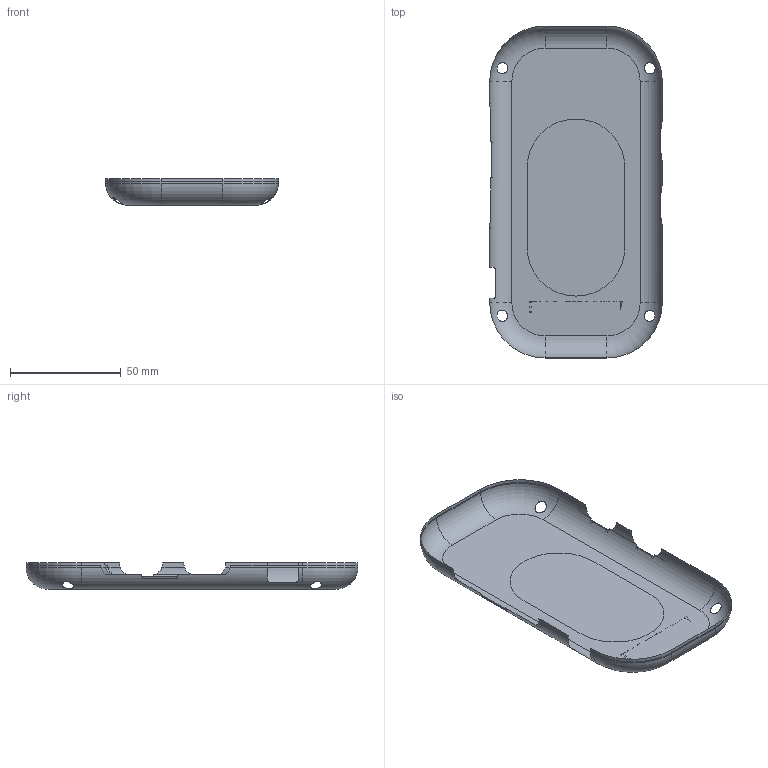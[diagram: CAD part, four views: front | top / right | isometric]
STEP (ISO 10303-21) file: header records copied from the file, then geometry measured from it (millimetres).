
FILE_DESCRIPTION(('Open CASCADE Model'),'2;1');
FILE_NAME('Open CASCADE Shape Model','2026-09-15T13:06:27',('Author'),( 'Open CASCADE'),'Open CASCADE STEP processor 7.7','Open CASCADE 7.7' ,'Unknown');
FILE_SCHEMA(('AUTOMOTIVE_DESIGN { 1 0 10303 214 1 1 1 1 }'));
Length unit declared in the file: millimetre
Products named in the file (65): Open CASCADE STEP translator 7.7 2; Open CASCADE STEP translator 7.7 2.1; Open CASCADE STEP translator 7.7 2.2; Open CASCADE STEP translator 7.7 2.3; Open CASCADE STEP translator 7.7 2.4; Open CASCADE STEP translator 7.7 2.5; Open CASCADE STEP translator 7.7 2.6; Open CASCADE STEP translator 7.7 2.7; Open CASCADE STEP translator 7.7 2.8; Open CASCADE STEP translator 7.7 2.9; Open CASCADE STEP translator 7.7 2.10; Open CASCADE STEP translator 7.7 2.11; Open CASCADE STEP translator 7.7 2.12; Open CASCADE STEP translator 7.7 2.13; Open CASCADE STEP translator 7.7 2.14; Open CASCADE STEP translator 7.7 2.15; Open CASCADE STEP translator 7.7 2.16; Open CASCADE STEP translator 7.7 2.17; Open CASCADE STEP translator 7.7 2.18; Open CASCADE STEP translator 7.7 2.19; Open CASCADE STEP translator 7.7 2.20; Open CASCADE STEP translator 7.7 2.21; Open CASCADE STEP translator 7.7 2.22; Open CASCADE STEP translator 7.7 2.23; Open CASCADE STEP translator 7.7 2.24; Open CASCADE STEP translator 7.7 2.25; Open CASCADE STEP translator 7.7 2.26; Open CASCADE STEP translator 7.7 2.27; Open CASCADE STEP translator 7.7 2.28; Open CASCADE STEP translator 7.7 2.29; Open CASCADE STEP translator 7.7 2.30; Open CASCADE STEP translator 7.7 2.31; Open CASCADE STEP translator 7.7 2.32; Open CASCADE STEP translator 7.7 2.33; Open CASCADE STEP translator 7.7 2.34; Open CASCADE STEP translator 7.7 2.35; Open CASCADE STEP translator 7.7 2.36; Open CASCADE STEP translator 7.7 2.37; Open CASCADE STEP translator 7.7 2.38; Open CASCADE STEP translator 7.7 2.39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
Assembly tree (64 placements, depth 2):
  Open CASCADE STEP translator 7.7 2
    Open CASCADE STEP translator 7.7 2.1
    Open CASCADE STEP translator 7.7 2.2
    Open CASCADE STEP translator 7.7 2.3
    Open CASCADE STEP translator 7.7 2.4
    Open CASCADE STEP translator 7.7 2.5
    Open CASCADE STEP translator 7.7 2.6
    Open CASCADE STEP translator 7.7 2.7
    Open CASCADE STEP translator 7.7 2.8
    Open CASCADE STEP translator 7.7 2.9
    Open CASCADE STEP translator 7.7 2.10
    Open CASCADE STEP translator 7.7 2.11
    Open CASCADE STEP translator 7.7 2.12
    Open CASCADE STEP translator 7.7 2.13
    Open CASCADE STEP translator 7.7 2.14
    Open CASCADE STEP translator 7.7 2.15
    Open CASCADE STEP translator 7.7 2.16
    Open CASCADE STEP translator 7.7 2.17
    Open CASCADE STEP translator 7.7 2.18
    Open CASCADE STEP translator 7.7 2.19
    Open CASCADE STEP translator 7.7 2.20
    Open CASCADE STEP translator 7.7 2.21
    Open CASCADE STEP translator 7.7 2.22
    Open CASCADE STEP translator 7.7 2.23
    Open CASCADE STEP translator 7.7 2.24
    Open CASCADE STEP translator 7.7 2.25
    Open CASCADE STEP translator 7.7 2.26
    Open CASCADE STEP translator 7.7 2.27
    Open CASCADE STEP translator 7.7 2.28
    Open CASCADE STEP translator 7.7 2.29
    Open CASCADE STEP translator 7.7 2.30
    Open CASCADE STEP translator 7.7 2.31
    Open CASCADE STEP translator 7.7 2.32
    Open CASCADE STEP translator 7.7 2.33
    Open CASCADE STEP translator 7.7 2.34
    Open CASCADE STEP translator 7.7 2.35
    Open CASCADE STEP translator 7.7 2.36
    Open CASCADE STEP translator 7.7 2.37
    Open CASCADE STEP translator 7.7 2.38
    Open CASCADE STEP translator 7.7 2.39
    Open CASCADE STEP translator 7.7 2.40
    Open CASCADE STEP translator 7.7 2.41
    Open CASCADE STEP translator 7.7 2.42
    Open CASCADE STEP translator 7.7 2.43
    Open CASCADE STEP translator 7.7 2.44
    Open CASCADE STEP translator 7.7 2.45
    Open CASCADE STEP translator 7.7 2.46
    Open CASCADE STEP translator 7.7 2.47
    Open CASCADE STEP translator 7.7 2.48
    Open CASCADE STEP translator 7.7 2.49
    Open CASCADE STEP translator 7.7 2.50
    Open CASCADE STEP translator 7.7 2.51
    Open CASCADE STEP translator 7.7 2.52
    Open CASCADE STEP translator 7.7 2.53
    Open CASCADE STEP translator 7.7 2.54
    Open CASCADE STEP translator 7.7 2.55
    Open CASCADE STEP translator 7.7 2.56
    Open CASCADE STEP translator 7.7 2.57
    Open CASCADE STEP translator 7.7 2.58
    Open CASCADE STEP translator 7.7 2.59
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Bounding box: 78 x 150 x 12 mm (x, y, z)
Surface area: 13567.1 mm2 (no closed solid volume)
Topology: 0 solids, 64 shells, 64 faces, 470 edges, 470 vertices
Faces by surface type: plane 32, cylinder 20, torus 12
Entity records: 11362 total; most frequent: CARTESIAN_POINT 4215, DIRECTION 1166, LINE 616, VECTOR 616, ORIENTED_EDGE 470, EDGE_CURVE 470, VERTEX_POINT 470, SURFACE_CURVE 470
